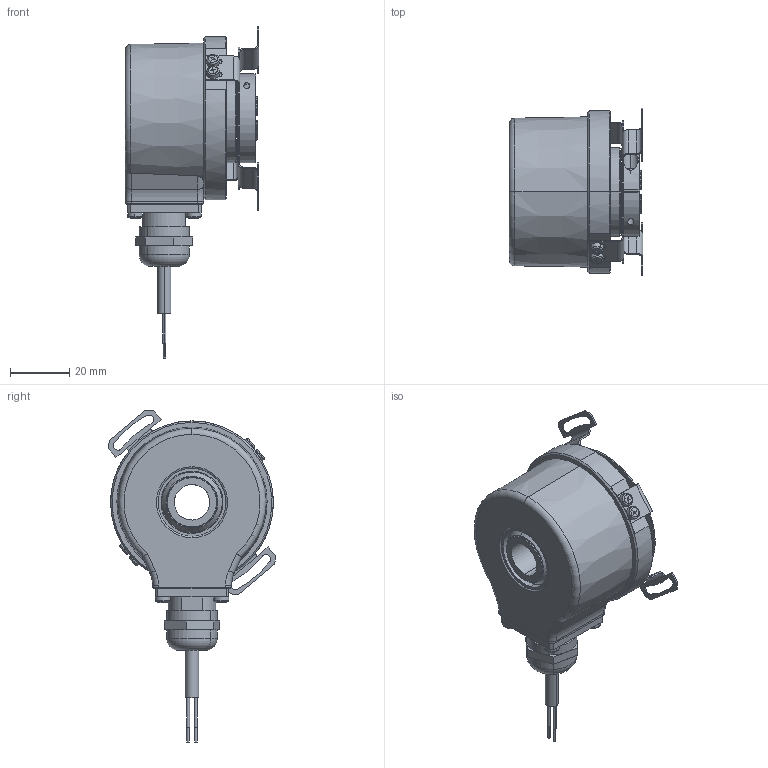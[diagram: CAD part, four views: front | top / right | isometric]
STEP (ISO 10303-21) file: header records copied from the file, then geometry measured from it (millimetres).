
FILE_DESCRIPTION (( 'STEP AP214' ), '1' );
FILE_NAME ('5020.D5X1.XXXX.STEP', '2007-06-18T09:54:58', ( 'DanneckerS' ), ( ' ' ), 'SwSTEP 2.0', 'SolidWorks 2007', '' );
FILE_SCHEMA (( 'AUTOMOTIVE_DESIGN' ));
Length unit declared in the file: millimetre
Products named in the file (1): 5020.D5X1.XXXX
Bounding box: 45.2 x 56.46 x 112.19 mm (x, y, z)
Surface area: 22670.1 mm2 (no closed solid volume)
Topology: 0 solids, 22 shells, 385 faces, 1097 edges, 726 vertices
Faces by surface type: plane 195, cylinder 111, torus 34, cone 33, sphere 8, bspline 4
Entity records: 17140 total; most frequent: CARTESIAN_POINT 2684, DIRECTION 2248, ORIENTED_EDGE 1949, EDGE_CURVE 1097, AXIS2_PLACEMENT_3D 830, VERTEX_POINT 726, VECTOR 588, LINE 588
